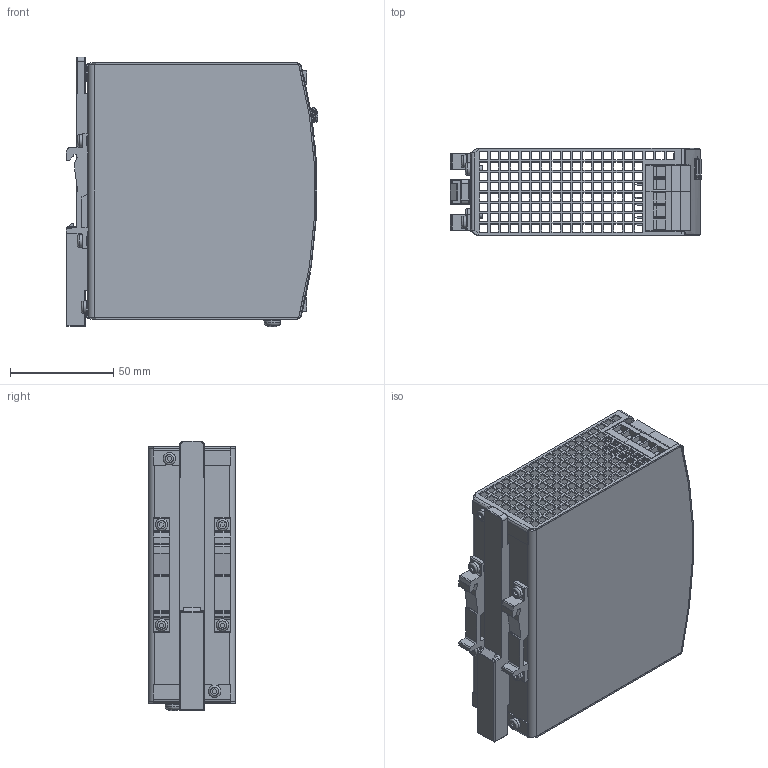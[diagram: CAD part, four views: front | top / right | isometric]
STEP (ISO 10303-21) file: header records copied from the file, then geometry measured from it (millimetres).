
FILE_DESCRIPTION(/* description */ (''),/* implementation_level */ '2;1');
FILE_NAME(/* name */ 'C:\Vault-Work\Vault\Designs\MARKETING\Internet\400-449\421.00\md3_cd10_242.stp',/* time_stamp */ '2021-02-12T12:22:35+01:00',/* author */ ('Rahn'),/* organization */ (''),/* preprocessor_version */ 'ST-DEVELOPER v18.1',/* originating_system */ 'Autodesk Inventor 2020',/* authorisation */ '');
FILE_SCHEMA (('AUTOMOTIVE_DESIGN { 1 0 10303 214 3 1 1 }'));
Products named in the file (15): 421.06; HOUSING BODY 421.06; MKT_SLIDER; MKT_T HOLDER1; HOUSING COVER 421.06; MKT_SCREW 3x6; FRONTFOIL 421.06; MKT_LED GN; MKT_POTI COVER; MKT_LP3BK-D1; MKT_LP2BK-D1; MKT_LP3BK-D2; MKT_SCREW 4x8; MKT_WASHER 4; MKT-LP2SW-16
Assembly tree (20 placements, depth 2):
  421.06
    HOUSING BODY 421.06
    MKT_SLIDER
    MKT_T HOLDER1  x2
    MKT_SCREW 3x6  x6
    HOUSING COVER 421.06
    FRONTFOIL 421.06
    MKT_LED GN
    MKT_POTI COVER
    MKT_LP3BK-D1
    MKT_LP2BK-D1
    MKT_LP3BK-D2
    MKT_SCREW 4x8
    MKT_WASHER 4
    MKT-LP2SW-16
Bounding box: 121.97 x 42 x 130.77 mm (x, y, z)
Volume: 80351.6 mm3; surface area: 109990.7 mm2
Topology: 21 solids, 21 shells, 2078 faces, 5870 edges, 3940 vertices
Faces by surface type: plane 1802, cylinder 191, torus 25, cone 24, bspline 23, sphere 13
Full cylindrical faces by diameter (mm): 0.3 x4, 1.2 x2, 2.45 x2, 3 x6, 3.1 x4, 3.621 x1, 4 x1, 4.355 x1, 4.6 x1, 5.15 x8, 6 x6
Entity records: 64484 total; most frequent: CARTESIAN_POINT 12367, ORIENTED_EDGE 10856, DIRECTION 9657, EDGE_CURVE 5428, LINE 4895, VECTOR 4895, VERTEX_POINT 3578, EDGE_LOOP 2548
